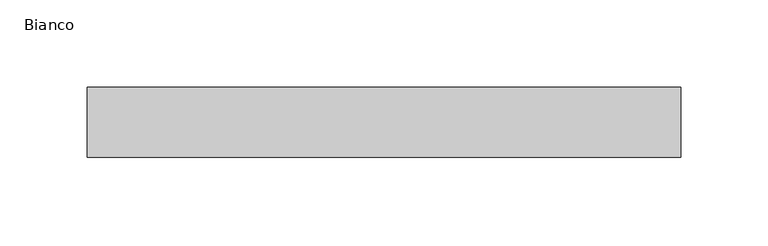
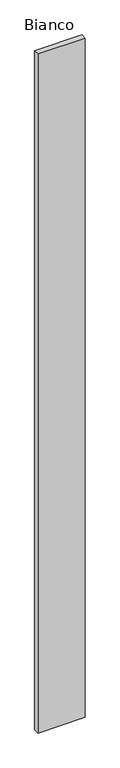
"""IFC4 building model written with IfcOpenShell, lengths in millimetres: plate geometry, Lod 200 Regolare 800 Vertical : Bianco."""

import ifcopenshell
import ifcopenshell.guid

model = None  # the IFC model being written
_history = None  # IfcOwnerHistory: only IFC2X3 demands one
_inside = {}  # id of a spatial element -> (the spatial element, [elements in it])
_under = {}  # id of a project, library or spatial element -> (it, [spatial elements below it])
_declared = {}  # id of a project -> (the project, [libraries it declares])
_typed = {}  # id of a type object -> (the type object, [elements of that type])
_made_of = {}  # id of a material, layer set ... -> (it, [elements and type objects made of it])


def new_model(schema):
    """Start an empty IFC model of exactly this schema.

    Asked for "IFC4X3", IfcOpenShell would pick the latest addendum, in which some entities
    have other attributes; the version numbers below select the first issue.
    IFC2X3 requires an IfcOwnerHistory on every rooted entity: one is made here for all.
    """
    global model, _history
    if schema == "IFC4X3":
        model = ifcopenshell.file(schema_version=(4, 3, 0, 0))
    else:
        model = ifcopenshell.file(schema=schema)
    _inside.clear()
    _under.clear()
    _declared.clear()
    _typed.clear()
    _made_of.clear()
    _history = None
    if model.schema == "IFC2X3":
        org = make("IfcOrganization", Name="unknown")
        user = make(
            "IfcPersonAndOrganization",
            ThePerson=make("IfcPerson", FamilyName="unknown"),
            TheOrganization=org,
        )
        app = make(
            "IfcApplication",
            ApplicationDeveloper=org,
            Version="unknown",
            ApplicationFullName="unknown",
            ApplicationIdentifier="unknown",
        )
        _history = make(
            "IfcOwnerHistory",
            OwningUser=user,
            OwningApplication=app,
            ChangeAction="ADDED",
            CreationDate=0,
        )
    return model


def make(cls, **values):
    """One entity of the class cls with the attributes given. An attribute that is None is left unset."""
    return model.create_entity(
        cls, **{name: value for name, value in values.items() if value is not None}
    )


def rooted(cls, **values):
    """An entity with a GlobalId (a new one), such as an element, a storey or a relation."""
    return make(cls, GlobalId=ifcopenshell.guid.new(), OwnerHistory=_history, **values)


def si_unit(unit_type, name, prefix=None):
    """IfcSIUnit, for example si_unit("LENGTHUNIT", "METRE", prefix="MILLI")."""
    return make("IfcSIUnit", UnitType=unit_type, Prefix=prefix, Name=name)


def assignment(units):
    """IfcUnitAssignment: the units of a project."""
    return None if units is None else make("IfcUnitAssignment", Units=units)


def point(xyz):
    """IfcCartesianPoint."""
    return None if xyz is None else make("IfcCartesianPoint", Coordinates=xyz)


def direction(xyz):
    """IfcDirection."""
    return None if xyz is None else make("IfcDirection", DirectionRatios=xyz)


def frame(location, z_axis=None, x_axis=None):
    """IfcAxis2Placement3D, a coordinate frame: its origin and axes. An axis left out is left unset."""
    return make(
        "IfcAxis2Placement3D",
        Location=point(location),
        Axis=direction(z_axis),
        RefDirection=direction(x_axis),
    )


def origin():
    """The frame at (0, 0, 0) with its axes left unset."""
    return frame((0.0, 0.0, 0.0))


def origin_with_axes():
    """The frame at (0, 0, 0) with the z axis (0, 0, 1) and the x axis (1, 0, 0) written out."""
    return frame((0.0, 0.0, 0.0), z_axis=(0.0, 0.0, 1.0), x_axis=(1.0, 0.0, 0.0))


def place(relative_to, where):
    """IfcLocalPlacement: puts the frame where relative to a parent placement (None: the world)."""
    return make(
        "IfcLocalPlacement", PlacementRelTo=relative_to, RelativePlacement=where
    )


def context(
    kind, dimensions, precision=None, world=None, true_north=None, identifier=None
):
    """IfcGeometricRepresentationContext, for example the 3D "Model" context."""
    return make(
        "IfcGeometricRepresentationContext",
        ContextIdentifier=identifier,
        ContextType=kind,
        CoordinateSpaceDimension=dimensions,
        Precision=precision,
        WorldCoordinateSystem=world,
        TrueNorth=true_north,
    )


def project(units=None, contexts=None):
    """IfcProject with its units and contexts."""
    return rooted(
        "IfcProject",
        Name="project",
        RepresentationContexts=contexts,
        UnitsInContext=assignment(units),
    )


def spatial(cls, under=None, at=None, **own):
    """A site, building, storey or space (cls), placed at a placement, below another one or the project."""
    s = rooted(cls, ObjectPlacement=at, **own)
    if under is not None:
        _under.setdefault(under.id(), (under, []))[1].append(s)
    return s


def polyline(points):
    """IfcPolyline through the points."""
    return make("IfcPolyline", Points=[point(p) for p in points])


def outline(outer, holes=None, kind="AREA"):
    """IfcArbitraryClosedProfileDef: a profile drawn as a closed curve; with holes, ...WithVoids."""
    if holes is None:
        return make("IfcArbitraryClosedProfileDef", ProfileType=kind, OuterCurve=outer)
    return make(
        "IfcArbitraryProfileDefWithVoids",
        ProfileType=kind,
        OuterCurve=outer,
        InnerCurves=holes,
    )


def extrude(swept, where, along, depth):
    """IfcExtrudedAreaSolid: the profile swept, set in the frame where, extruded along a direction by depth."""
    return make(
        "IfcExtrudedAreaSolid",
        SweptArea=swept,
        Position=where,
        ExtrudedDirection=direction(along),
        Depth=depth,
    )


def shape(context_of_items, identifier, shape_type, items):
    """IfcShapeRepresentation: the items that make up one representation, for example the "Body"."""
    return make(
        "IfcShapeRepresentation",
        ContextOfItems=context_of_items,
        RepresentationIdentifier=identifier,
        RepresentationType=shape_type,
        Items=items,
    )


def source(mapping_origin, context_of_items, identifier, shape_type, items):
    """IfcRepresentationMap: a shape defined once, which mapped items show again and again."""
    return make(
        "IfcRepresentationMap",
        MappingOrigin=mapping_origin,
        MappedRepresentation=shape(context_of_items, identifier, shape_type, items),
    )


def transform(
    local_origin,
    x_axis=None,
    y_axis=None,
    z_axis=None,
    scale=None,
    scale2=None,
    scale3=None,
    uniform=True,
):
    """IfcCartesianTransformationOperator3D, or its non-uniform kind. x_axis, y_axis, z_axis: its Axis1, 2, 3."""
    if uniform:
        return make(
            "IfcCartesianTransformationOperator3D",
            Axis1=direction(x_axis),
            Axis2=direction(y_axis),
            LocalOrigin=point(local_origin),
            Scale=scale,
            Axis3=direction(z_axis),
        )
    return make(
        "IfcCartesianTransformationOperator3DnonUniform",
        Axis1=direction(x_axis),
        Axis2=direction(y_axis),
        LocalOrigin=point(local_origin),
        Scale=scale,
        Axis3=direction(z_axis),
        Scale2=scale2,
        Scale3=scale3,
    )


def mapped(mapping_source, mapping_target):
    """IfcMappedItem: shows the shape of a source again, moved by a transform."""
    return make(
        "IfcMappedItem", MappingSource=mapping_source, MappingTarget=mapping_target
    )


def made_of(thing, what):
    """Note that an element or type object is made of a material, layer set ...; save() writes the relation."""
    if what is not None:
        _made_of.setdefault(what.id(), (what, []))[1].append(thing)
    return thing


def element(
    cls,
    number,
    at=None,
    inside=None,
    cuts=None,
    type_object=None,
    material=None,
    context=None,
    identifier="Body",
    shape_type=None,
    held_by="IfcProductDefinitionShape",
    body=None,
    shapes=None,
    **own,
):
    """One element of the class cls, such as IfcWall. Its Tag is "e" and its number.

    at: its placement. inside: the storey or other place that contains it. cuts: it is an
    opening in that element (IfcRelVoidsElement). A single representation is given by context,
    identifier, shape_type and body (its items); several are given by shapes. held_by: the class
    of the entity that holds the representations. save() writes the other relations.
    """
    e = rooted(cls, Tag="e%d" % number, ObjectPlacement=at, **own)
    if body is not None:
        shapes = [shape(context, identifier, shape_type, body)]
    if shapes is not None:
        e.Representation = make(held_by, Representations=shapes)
    if inside is not None:
        _inside.setdefault(inside.id(), (inside, []))[1].append(e)
    if cuts is not None:
        rooted(
            "IfcRelVoidsElement", RelatingBuildingElement=cuts, RelatedOpeningElement=e
        )
    if type_object is not None:
        _typed.setdefault(type_object.id(), (type_object, []))[1].append(e)
    return made_of(e, material)


def aggregate(whole, parts):
    """IfcRelAggregates: a whole, such as a stair, and the parts it consists of."""
    return rooted("IfcRelAggregates", RelatingObject=whole, RelatedObjects=parts)


def save(model, path):
    """Write the relations noted so far, then the file.

    IfcRelAggregates (storeys below a building ...), IfcRelContainedInSpatialStructure (elements
    in a storey), IfcRelDefinesByType, IfcRelAssociatesMaterial and IfcRelDeclares: one each for
    every whole, place, type object, material and project.
    """
    for whole, parts in _under.values():
        aggregate(whole, parts)
    for where, things in _inside.values():
        rooted(
            "IfcRelContainedInSpatialStructure",
            RelatedElements=things,
            RelatingStructure=where,
        )
    for kind, things in _typed.values():
        rooted("IfcRelDefinesByType", RelatedObjects=things, RelatingType=kind)
    for what, things in _made_of.values():
        rooted("IfcRelAssociatesMaterial", RelatedObjects=things, RelatingMaterial=what)
    for by, libraries in _declared.values():
        rooted("IfcRelDeclares", RelatingContext=by, RelatedDefinitions=libraries)
    model.write(path)


def bianco_fb25e2bd(model_context):
    return source(origin(), model_context, "Body", "SweptSolid", [
        extrude(outline(polyline([(170.0, 40.0), (170.0, 0.0), (-170.0, 0.0), (-170.0, 40.0), (170.0, 40.0)])), origin_with_axes(), (0.0, 0.0, 1.0), 5176.3809021),
    ])


if __name__ == "__main__":
    model = new_model("IFC4")
    model_context = context("Model", 3, world=origin())
    ifc_project = project(units=[si_unit("LENGTHUNIT", "METRE", prefix="MILLI")], contexts=[model_context])
    site = spatial("IfcSite", under=ifc_project)
    building = spatial("IfcBuilding", under=site)
    placement = place(None, origin())
    bianco_shape = bianco_fb25e2bd(model_context)
    element("IfcPlate", 1, ObjectType="Lod 200 Regolare 800 Vertical : Bianco", at=placement, inside=building, context=model_context, shape_type="MappedRepresentation", body=[
        mapped(bianco_shape, transform((0.0, 0.0, 0.0), x_axis=(1.0, 0.0, 0.0), y_axis=(0.0, 1.0, 0.0), z_axis=(0.0, 0.0, 1.0))),
    ])
    save(model, "model.ifc")
